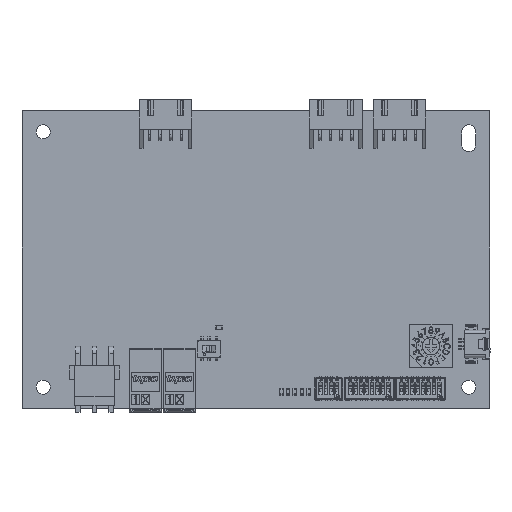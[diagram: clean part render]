
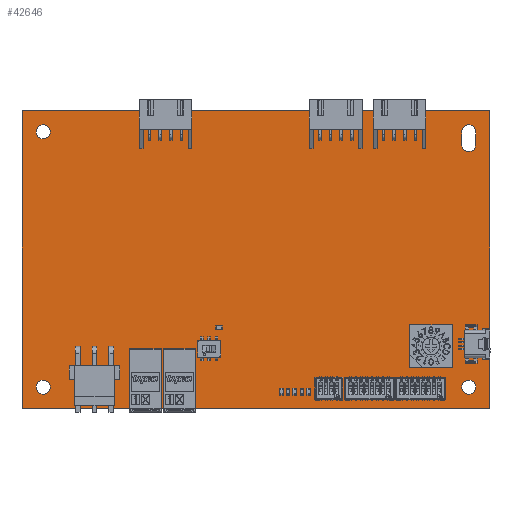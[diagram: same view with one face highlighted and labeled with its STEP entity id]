
A CAD part, top view. The second image highlights one B-rep face of the part: STEP entity #42646.
In plain terms, the highlighted planar face has unit normal (0, 0, 1).
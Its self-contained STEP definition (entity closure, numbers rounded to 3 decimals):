
#201 = EDGE_CURVE ( 'NONE', #11741, #69646, #71334, .T. ) ;
#785 = CARTESIAN_POINT ( 'NONE',  ( 105., 65., 0. ) ) ;
#1502 = CARTESIAN_POINT ( 'NONE',  ( 0., 0., 0. ) ) ;
#2033 = AXIS2_PLACEMENT_3D ( 'NONE', #1502, #73336, #18625 ) ;
#2200 = CARTESIAN_POINT ( 'NONE',  ( 110., 70., 0. ) ) ;
#4165 = VECTOR ( 'NONE', #66501, 1000. ) ;
#4415 = EDGE_LOOP ( 'NONE', ( #30457, #19409 ) ) ;
#4421 = CARTESIAN_POINT ( 'NONE',  ( 105., 62., 0. ) ) ;
#4750 = VERTEX_POINT ( 'NONE', #63535 ) ;
#6674 = VERTEX_POINT ( 'NONE', #40196 ) ;
#6763 = ORIENTED_EDGE ( 'NONE', *, *, #44219, .F. ) ;
#7814 = AXIS2_PLACEMENT_3D ( 'NONE', #54133, #47826, #53767 ) ;
#8011 = ORIENTED_EDGE ( 'NONE', *, *, #34021, .T. ) ;
#8177 = CIRCLE ( 'NONE', #37782, 1.65 ) ;
#9683 = LINE ( 'NONE', #38252, #4165 ) ;
#10477 = VERTEX_POINT ( 'NONE', #55425 ) ;
#11741 = VERTEX_POINT ( 'NONE', #50594 ) ;
#12002 = LINE ( 'NONE', #63615, #57957 ) ;
#12677 = FACE_BOUND ( 'NONE', #15594, .T. ) ;
#12971 = DIRECTION ( 'NONE',  ( 0., -1., 0. ) ) ;
#13001 = CARTESIAN_POINT ( 'NONE',  ( 110., 0., 0. ) ) ;
#14839 = ORIENTED_EDGE ( 'NONE', *, *, #72720, .F. ) ;
#15268 = CARTESIAN_POINT ( 'NONE',  ( 106.65, 5., 0. ) ) ;
#15594 = EDGE_LOOP ( 'NONE', ( #6763, #63002, #60216, #42867 ) ) ;
#16139 = VERTEX_POINT ( 'NONE', #2200 ) ;
#16149 = CIRCLE ( 'NONE', #7814, 1.65 ) ;
#16531 = FACE_BOUND ( 'NONE', #4415, .T. ) ;
#18146 = EDGE_CURVE ( 'NONE', #69646, #10477, #30740, .T. ) ;
#18625 = DIRECTION ( 'NONE',  ( -1., 0., 0. ) ) ;
#19003 = FACE_BOUND ( 'NONE', #30488, .T. ) ;
#19409 = ORIENTED_EDGE ( 'NONE', *, *, #22185, .F. ) ;
#19436 = CARTESIAN_POINT ( 'NONE',  ( 0., 0., 0. ) ) ;
#19524 = EDGE_CURVE ( 'NONE', #4750, #63015, #8177, .T. ) ;
#20778 = CIRCLE ( 'NONE', #45678, 1.65 ) ;
#21035 = CIRCLE ( 'NONE', #30540, 1.65 ) ;
#22031 = EDGE_LOOP ( 'NONE', ( #24165, #64194, #8011, #72395 ) ) ;
#22185 = EDGE_CURVE ( 'NONE', #6674, #30246, #16149, .T. ) ;
#24165 = ORIENTED_EDGE ( 'NONE', *, *, #64549, .T. ) ;
#26718 = DIRECTION ( 'NONE',  ( 0., 0., 1. ) ) ;
#27709 = DIRECTION ( 'NONE',  ( 0., 0., 1. ) ) ;
#28379 = CARTESIAN_POINT ( 'NONE',  ( 5., 65., 0. ) ) ;
#28544 = LINE ( 'NONE', #57502, #71152 ) ;
#29393 = CIRCLE ( 'NONE', #53172, 1.65 ) ;
#29845 = VECTOR ( 'NONE', #12971, 1000. ) ;
#30246 = VERTEX_POINT ( 'NONE', #15268 ) ;
#30248 = EDGE_CURVE ( 'NONE', #69479, #45611, #9683, .T. ) ;
#30457 = ORIENTED_EDGE ( 'NONE', *, *, #55655, .F. ) ;
#30488 = EDGE_LOOP ( 'NONE', ( #14839, #50693 ) ) ;
#30540 = AXIS2_PLACEMENT_3D ( 'NONE', #63665, #58098, #45830 ) ;
#30740 = LINE ( 'NONE', #36662, #54312 ) ;
#30905 = EDGE_CURVE ( 'NONE', #51692, #39686, #20778, .T. ) ;
#31340 = DIRECTION ( 'NONE',  ( 0., 0., 1. ) ) ;
#31571 = CARTESIAN_POINT ( 'NONE',  ( 6.65, 5., 0. ) ) ;
#33913 = CIRCLE ( 'NONE', #50571, 1.65 ) ;
#33928 = CIRCLE ( 'NONE', #68282, 1.65 ) ;
#34021 = EDGE_CURVE ( 'NONE', #45611, #16139, #12002, .T. ) ;
#34304 = DIRECTION ( 'NONE',  ( 1., 0., 0. ) ) ;
#35565 = CARTESIAN_POINT ( 'NONE',  ( 0., 70., 0. ) ) ;
#36003 = ORIENTED_EDGE ( 'NONE', *, *, #30905, .F. ) ;
#36047 = PLANE ( 'NONE',  #2033 ) ;
#36546 = DIRECTION ( 'NONE',  ( 1., 0., 0. ) ) ;
#36662 = CARTESIAN_POINT ( 'NONE',  ( 106.65, 65., 0. ) ) ;
#37782 = AXIS2_PLACEMENT_3D ( 'NONE', #38457, #27709, #68175 ) ;
#38252 = CARTESIAN_POINT ( 'NONE',  ( 0., 0., 0. ) ) ;
#38457 = CARTESIAN_POINT ( 'NONE',  ( 5., 5., 0. ) ) ;
#39300 = AXIS2_PLACEMENT_3D ( 'NONE', #4421, #26718, #73506 ) ;
#39665 = DIRECTION ( 'NONE',  ( -1., 0., 0. ) ) ;
#39686 = VERTEX_POINT ( 'NONE', #70745 ) ;
#40079 = LINE ( 'NONE', #62764, #63719 ) ;
#40196 = CARTESIAN_POINT ( 'NONE',  ( 103.35, 5., 0. ) ) ;
#40449 = DIRECTION ( 'NONE',  ( 0., -1., 0. ) ) ;
#41168 = CARTESIAN_POINT ( 'NONE',  ( 0., 0., 0. ) ) ;
#41296 = DIRECTION ( 'NONE',  ( 0., 0., 1. ) ) ;
#42646 = ADVANCED_FACE ( 'NONE', ( #12677, #52416, #19003, #16531, #50672 ), #36047, .F. ) ;
#42867 = ORIENTED_EDGE ( 'NONE', *, *, #201, .F. ) ;
#42936 = DIRECTION ( 'NONE',  ( 0., 0., 1. ) ) ;
#44219 = EDGE_CURVE ( 'NONE', #68770, #11741, #40079, .T. ) ;
#44918 = CARTESIAN_POINT ( 'NONE',  ( 106.65, 62., 0. ) ) ;
#45118 = EDGE_CURVE ( 'NONE', #10477, #68770, #29393, .T. ) ;
#45611 = VERTEX_POINT ( 'NONE', #13001 ) ;
#45678 = AXIS2_PLACEMENT_3D ( 'NONE', #54090, #42936, #55168 ) ;
#45777 = DIRECTION ( 'NONE',  ( 0., 1., 0. ) ) ;
#45830 = DIRECTION ( 'NONE',  ( 1., 0., 0. ) ) ;
#46133 = DIRECTION ( 'NONE',  ( 1., 0., 0. ) ) ;
#47826 = DIRECTION ( 'NONE',  ( 0., 0., 1. ) ) ;
#48582 = CARTESIAN_POINT ( 'NONE',  ( 103.35, 65., 0. ) ) ;
#50571 = AXIS2_PLACEMENT_3D ( 'NONE', #28379, #56239, #34304 ) ;
#50594 = CARTESIAN_POINT ( 'NONE',  ( 103.35, 62., 0. ) ) ;
#50672 = FACE_OUTER_BOUND ( 'NONE', #22031, .T. ) ;
#50693 = ORIENTED_EDGE ( 'NONE', *, *, #19524, .F. ) ;
#51692 = VERTEX_POINT ( 'NONE', #53717 ) ;
#52416 = FACE_BOUND ( 'NONE', #66130, .T. ) ;
#53172 = AXIS2_PLACEMENT_3D ( 'NONE', #785, #41296, #46133 ) ;
#53717 = CARTESIAN_POINT ( 'NONE',  ( 3.35, 65., 0. ) ) ;
#53767 = DIRECTION ( 'NONE',  ( 1., 0., 0. ) ) ;
#54090 = CARTESIAN_POINT ( 'NONE',  ( 5., 65., 0. ) ) ;
#54133 = CARTESIAN_POINT ( 'NONE',  ( 105., 5., 0. ) ) ;
#54312 = VECTOR ( 'NONE', #70462, 1000. ) ;
#55168 = DIRECTION ( 'NONE',  ( 1., 0., 0. ) ) ;
#55425 = CARTESIAN_POINT ( 'NONE',  ( 106.65, 65., 0. ) ) ;
#55655 = EDGE_CURVE ( 'NONE', #30246, #6674, #33928, .T. ) ;
#56239 = DIRECTION ( 'NONE',  ( 0., 0., 1. ) ) ;
#57502 = CARTESIAN_POINT ( 'NONE',  ( 0., 70., 0. ) ) ;
#57957 = VECTOR ( 'NONE', #45777, 1000. ) ;
#58098 = DIRECTION ( 'NONE',  ( 0., 0., 1. ) ) ;
#60216 = ORIENTED_EDGE ( 'NONE', *, *, #18146, .F. ) ;
#60299 = VERTEX_POINT ( 'NONE', #35565 ) ;
#62123 = EDGE_CURVE ( 'NONE', #16139, #60299, #28544, .T. ) ;
#62764 = CARTESIAN_POINT ( 'NONE',  ( 103.35, 65., 0. ) ) ;
#63002 = ORIENTED_EDGE ( 'NONE', *, *, #45118, .F. ) ;
#63015 = VERTEX_POINT ( 'NONE', #31571 ) ;
#63535 = CARTESIAN_POINT ( 'NONE',  ( 3.35, 5., 0. ) ) ;
#63615 = CARTESIAN_POINT ( 'NONE',  ( 110., 0., 0. ) ) ;
#63665 = CARTESIAN_POINT ( 'NONE',  ( 5., 5., 0. ) ) ;
#63719 = VECTOR ( 'NONE', #40449, 1000. ) ;
#64194 = ORIENTED_EDGE ( 'NONE', *, *, #30248, .T. ) ;
#64549 = EDGE_CURVE ( 'NONE', #60299, #69479, #69405, .T. ) ;
#65494 = ORIENTED_EDGE ( 'NONE', *, *, #69319, .F. ) ;
#65521 = CARTESIAN_POINT ( 'NONE',  ( 105., 5., 0. ) ) ;
#66130 = EDGE_LOOP ( 'NONE', ( #65494, #36003 ) ) ;
#66501 = DIRECTION ( 'NONE',  ( 1., 0., 0. ) ) ;
#68175 = DIRECTION ( 'NONE',  ( 1., 0., 0. ) ) ;
#68282 = AXIS2_PLACEMENT_3D ( 'NONE', #65521, #31340, #36546 ) ;
#68770 = VERTEX_POINT ( 'NONE', #48582 ) ;
#69319 = EDGE_CURVE ( 'NONE', #39686, #51692, #33913, .T. ) ;
#69405 = LINE ( 'NONE', #41168, #29845 ) ;
#69479 = VERTEX_POINT ( 'NONE', #19436 ) ;
#69646 = VERTEX_POINT ( 'NONE', #44918 ) ;
#70462 = DIRECTION ( 'NONE',  ( 0., 1., 0. ) ) ;
#70745 = CARTESIAN_POINT ( 'NONE',  ( 6.65, 65., 0. ) ) ;
#71152 = VECTOR ( 'NONE', #39665, 1000. ) ;
#71334 = CIRCLE ( 'NONE', #39300, 1.65 ) ;
#72395 = ORIENTED_EDGE ( 'NONE', *, *, #62123, .T. ) ;
#72720 = EDGE_CURVE ( 'NONE', #63015, #4750, #21035, .T. ) ;
#73336 = DIRECTION ( 'NONE',  ( 0., 0., -1. ) ) ;
#73506 = DIRECTION ( 'NONE',  ( 1., 0., 0. ) ) ;
